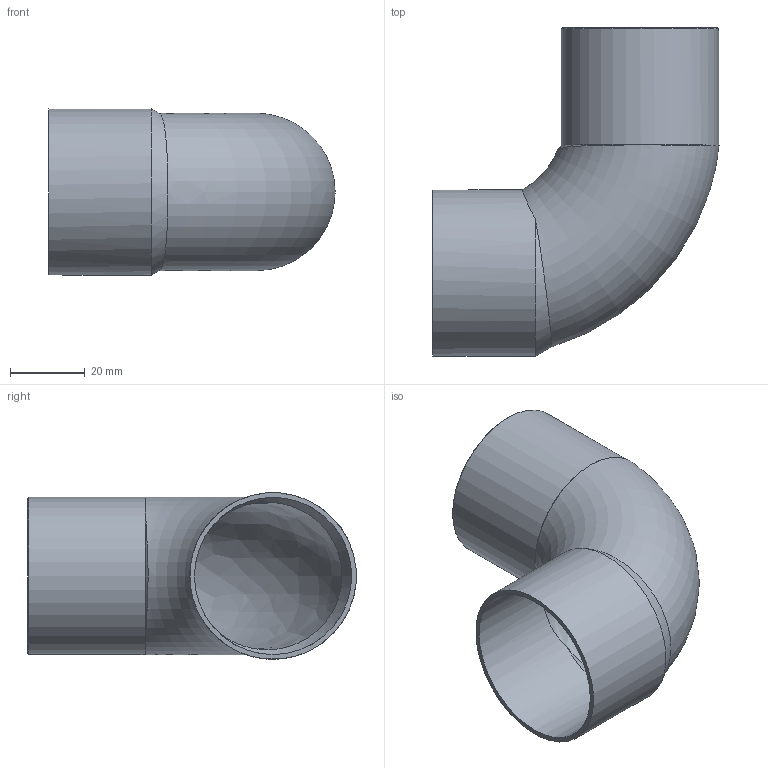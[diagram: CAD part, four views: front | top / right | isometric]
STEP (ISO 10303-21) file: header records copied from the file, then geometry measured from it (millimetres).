
FILE_DESCRIPTION((''),'2;1');
FILE_NAME('G:\SANHA-ESSEN\Entwicklung\Management\__STEP-Dateien_alle Serien\Serie 5000\5092\1509242(0)\1509242(0).stp','2013-10-22T12:25:38',('Lohse'),(''),'Autodesk Inventor 2009','Autodesk Inventor 2009','');
FILE_SCHEMA(('AUTOMOTIVE_DESIGN { 1 0 10303 214 1 1 1 1 }'));
Length unit declared in the file: millimetre
Products named in the file (1): 1509242(0)
Bounding box: 76.45 x 87.7 x 44.47 mm (x, y, z)
Volume: 18044.7 mm3; surface area: 27535.8 mm2
Topology: 1 solids, 1 shells, 16 faces, 47 edges, 33 vertices
Faces by surface type: cone 6, cylinder 4, plane 4, torus 1, bspline 1
Full cylindrical faces by diameter (mm): 39.4 x1, 42 x2, 44.5 x1
Entity records: 906 total; most frequent: CARTESIAN_POINT 533, ORIENTED_EDGE 68, DIRECTION 64, EDGE_CURVE 34, AXIS2_PLACEMENT_3D 32, VERTEX_POINT 28, EDGE_LOOP 26, B_SPLINE_CURVE_WITH_KNOTS 18
